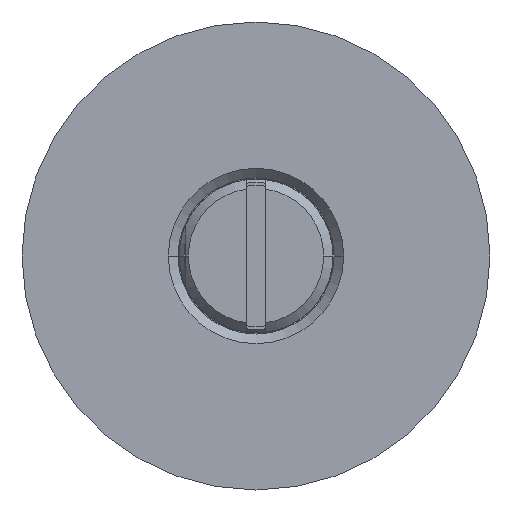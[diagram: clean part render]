
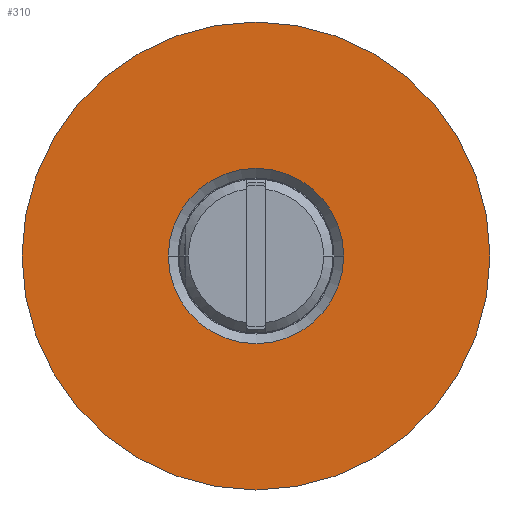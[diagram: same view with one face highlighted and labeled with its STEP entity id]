
A CAD part, left-side view. The second image highlights one B-rep face of the part: STEP entity #310.
In plain terms, the highlighted planar face has unit normal (-1, 0, 0).
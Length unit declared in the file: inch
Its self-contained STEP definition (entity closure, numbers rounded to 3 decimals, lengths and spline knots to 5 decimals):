
#102=CARTESIAN_POINT('',(-2.12977,-0.75,0.186));
#103=VERTEX_POINT('',#102);
#119=CARTESIAN_POINT('',(-2.12977,0.75,0.186));
#120=VERTEX_POINT('',#119);
#127=CARTESIAN_POINT('',(-2.12977,0.0,0.186));
#128=DIRECTION('',(-1.0,0.0,0.0));
#129=DIRECTION('',(0.0,-1.0,0.0));
#130=AXIS2_PLACEMENT_3D('',#127,#128,#129);
#131=CIRCLE('',#130,0.75);
#132=EDGE_CURVE('',#103,#120,#131,.T.);
#258=CARTESIAN_POINT('',(-2.12977,-0.281,0.186));
#259=VERTEX_POINT('',#258);
#267=CARTESIAN_POINT('',(-2.12977,0.281,0.186));
#268=VERTEX_POINT('',#267);
#275=CARTESIAN_POINT('',(-2.12977,0.0,0.186));
#276=DIRECTION('',(-1.0,0.0,0.0));
#277=DIRECTION('',(0.0,-1.0,0.0));
#278=AXIS2_PLACEMENT_3D('',#275,#276,#277);
#279=CIRCLE('',#278,0.281);
#280=EDGE_CURVE('',#268,#259,#279,.T.);
#285=CARTESIAN_POINT('',(-2.12977,-0.5155,0.186));
#286=DIRECTION('',(-1.0,0.0,0.0));
#287=DIRECTION('',(0.0,0.0,1.0));
#288=AXIS2_PLACEMENT_3D('',#285,#286,#287);
#289=PLANE('',#288);
#290=ORIENTED_EDGE('',*,*,#132,.T.);
#291=CARTESIAN_POINT('',(-2.12977,0.0,0.186));
#292=DIRECTION('',(-1.0,0.0,0.0));
#293=DIRECTION('',(0.0,-1.0,0.0));
#294=AXIS2_PLACEMENT_3D('',#291,#292,#293);
#295=CIRCLE('',#294,0.75);
#296=EDGE_CURVE('',#120,#103,#295,.T.);
#297=ORIENTED_EDGE('',*,*,#296,.T.);
#298=EDGE_LOOP('',(#290,#297));
#299=FACE_OUTER_BOUND('',#298,.T.);
#300=CARTESIAN_POINT('',(-2.12977,0.0,0.186));
#301=DIRECTION('',(-1.0,0.0,0.0));
#302=DIRECTION('',(0.0,-1.0,0.0));
#303=AXIS2_PLACEMENT_3D('',#300,#301,#302);
#304=CIRCLE('',#303,0.281);
#305=EDGE_CURVE('',#259,#268,#304,.T.);
#306=ORIENTED_EDGE('',*,*,#305,.F.);
#307=ORIENTED_EDGE('',*,*,#280,.F.);
#308=EDGE_LOOP('',(#306,#307));
#309=FACE_BOUND('',#308,.T.);
#310=ADVANCED_FACE('',(#299,#309),#289,.T.);
